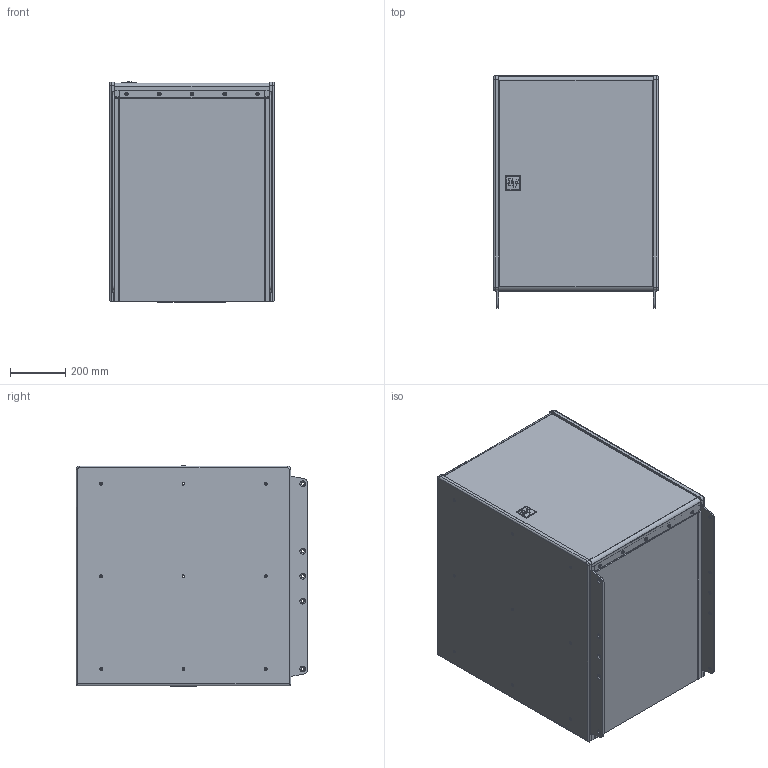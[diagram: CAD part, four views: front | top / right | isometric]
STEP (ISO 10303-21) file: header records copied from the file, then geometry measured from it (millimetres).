
FILE_DESCRIPTION (( 'STEP AP214' ), '1' );
FILE_NAME ('EVA-2151D Middle Element with Extended Grid 3D CAD.STEP', '2023-03-13T03:50:02', ( '' ), ( '' ), 'SwSTEP 2.0', 'SolidWorks 2021', '' );
FILE_SCHEMA (( 'AUTOMOTIVE_DESIGN' ));
Length unit declared in the file: millimetre
Products named in the file (10): EVA-2151D Back Plate; EVA-2151D Top and Bottom Plate; EVA-2151D Enclosure Assembly ; EVA-2151D Cover Plate; EVA-2151D Rear Panel; EVA-2151D Grille; EVA-2151D Middle Element with Extended Grid 3D CAD; EVA-2151D EV Logo; EVA-2151D EVA Tie Plate; EVA-2151D Side Plate
Assembly tree (13 placements, depth 3):
  EVA-2151D Middle Element with Extended Grid 3D CAD
    EVA-2151D Enclosure Assembly 
      EVA-2151D Back Plate
      EVA-2151D Top and Bottom Plate  x2
      EVA-2151D Side Plate  x2
    EVA-2151D EV Logo
    EVA-2151D Grille
    EVA-2151D Rear Panel
    EVA-2151D EVA Tie Plate  x2
    EVA-2151D Cover Plate  x2
Bounding box: 594.82 x 836.93 x 793.93 mm (x, y, z)
Volume: 63640143.8 mm3; surface area: 9245746.2 mm2
Topology: 12 solids, 12 shells, 979 faces, 2590 edges, 1641 vertices
Faces by surface type: plane 368, cylinder 320, cone 140, bspline 127, torus 24
Entity records: 24804 total; most frequent: CARTESIAN_POINT 8326, ORIENTED_EDGE 3498, DIRECTION 3117, EDGE_CURVE 1749, AXIS2_PLACEMENT_3D 1103, VERTEX_POINT 1099, VECTOR 911, LINE 911
